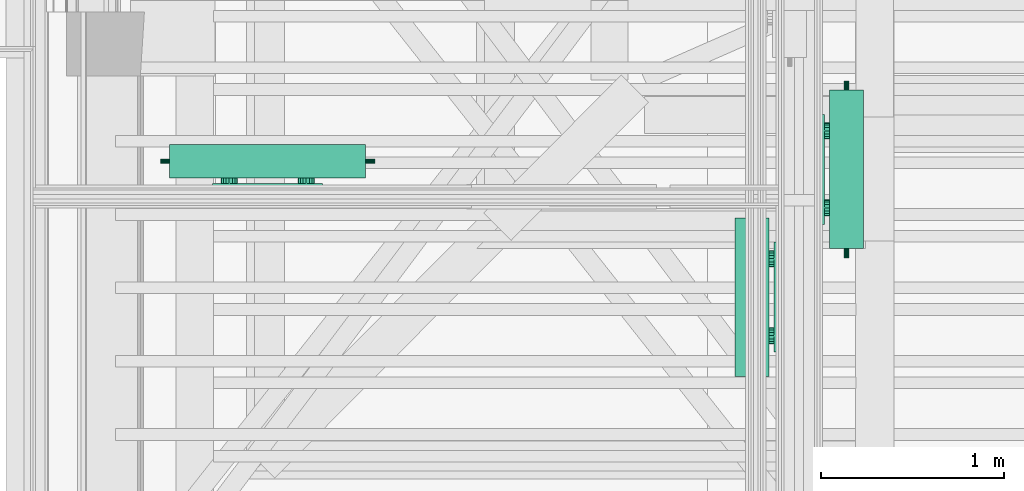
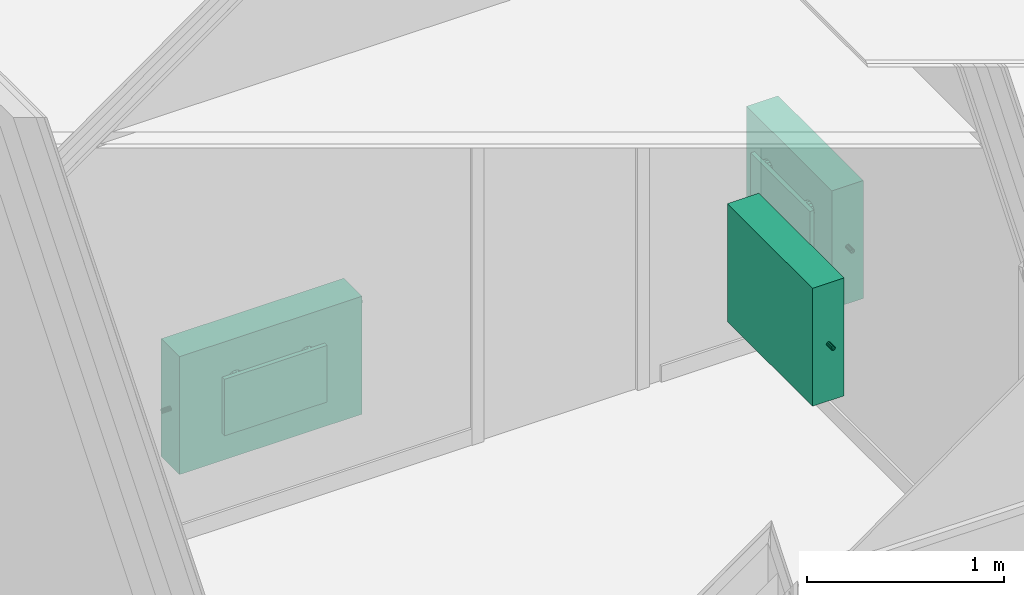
# One storey, part 158 of 183: 3 flow terminals.
"""IFC2X3 building model written with IfcOpenShell, lengths in metres."""

from ifc_helpers import new_model, entity, si_unit, converted_unit, derived_unit, money_unit, direction, frame, origin_with_axes, place, context, subcontext, project, spatial, open_shell, surface_model, material, type_object, element, save


model = new_model("IFC2X3")

# Units and contexts
model_context = context("Model", 3, precision=1e-05, world=origin_with_axes(), true_north=direction((0.0, 1.0)))
body_context = subcontext(model_context, "Body", "Model", "MODEL_VIEW", scale=1.0)
ifc_project = project(units=[si_unit("LENGTHUNIT", "METRE"), si_unit("AREAUNIT", "SQUARE_METRE"), si_unit("VOLUMEUNIT", "CUBIC_METRE"), si_unit("ABSORBEDDOSEUNIT", "GRAY"), si_unit("AMOUNTOFSUBSTANCEUNIT", "MOLE"), si_unit("DOSEEQUIVALENTUNIT", "SIEVERT"), si_unit("ELECTRICCAPACITANCEUNIT", "FARAD"), si_unit("ELECTRICCHARGEUNIT", "COULOMB"), si_unit("ELECTRICCONDUCTANCEUNIT", "SIEMENS"), si_unit("ELECTRICCURRENTUNIT", "AMPERE"), si_unit("ELECTRICRESISTANCEUNIT", "OHM"), si_unit("ELECTRICVOLTAGEUNIT", "VOLT"), si_unit("ENERGYUNIT", "JOULE"), si_unit("FORCEUNIT", "NEWTON"), si_unit("FREQUENCYUNIT", "HERTZ"), si_unit("ILLUMINANCEUNIT", "LUX"), si_unit("INDUCTANCEUNIT", "HENRY"), si_unit("LUMINOUSFLUXUNIT", "LUMEN"), si_unit("LUMINOUSINTENSITYUNIT", "CANDELA"), si_unit("MAGNETICFLUXDENSITYUNIT", "TESLA"), si_unit("MAGNETICFLUXUNIT", "WEBER"), si_unit("MASSUNIT", "GRAM"), converted_unit("PLANEANGLEUNIT", "degree", entity("IfcReal", 0.0174532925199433), si_unit("PLANEANGLEUNIT", "RADIAN"), dimensions=[0, 0, 0, 0, 0, 0, 0]), si_unit("POWERUNIT", "WATT"), si_unit("PRESSUREUNIT", "PASCAL"), si_unit("RADIOACTIVITYUNIT", "BECQUEREL"), si_unit("SOLIDANGLEUNIT", "STERADIAN"), si_unit("THERMODYNAMICTEMPERATUREUNIT", "KELVIN"), si_unit("TIMEUNIT", "SECOND"), derived_unit("ACCELERATIONUNIT", [(si_unit("LENGTHUNIT", "METRE"), 1), (si_unit("TIMEUNIT", "SECOND"), -2)]), derived_unit("ANGULARVELOCITYUNIT", [(converted_unit("PLANEANGLEUNIT", "degree", entity("IfcReal", 0.0174532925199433), si_unit("PLANEANGLEUNIT", "RADIAN"), dimensions=[0, 0, 0, 0, 0, 0, 0]), 1), (si_unit("TIMEUNIT", "SECOND"), -1)]), derived_unit("CURVATUREUNIT", [(converted_unit("PLANEANGLEUNIT", "degree", entity("IfcReal", 0.0174532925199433), si_unit("PLANEANGLEUNIT", "RADIAN"), dimensions=[0, 0, 0, 0, 0, 0, 0]), 1), (si_unit("LENGTHUNIT", "METRE"), -1)]), derived_unit("DYNAMICVISCOSITYUNIT", [(si_unit("PRESSUREUNIT", "PASCAL"), 1), (si_unit("TIMEUNIT", "SECOND"), 1)]), derived_unit("HEATFLUXDENSITYUNIT", [(si_unit("POWERUNIT", "WATT"), 1), (si_unit("LENGTHUNIT", "METRE"), -2)]), derived_unit("HEATINGVALUEUNIT", [(si_unit("ENERGYUNIT", "JOULE"), 1), (si_unit("MASSUNIT", "GRAM"), -1)]), derived_unit("INTEGERCOUNTRATEUNIT", [(si_unit("TIMEUNIT", "SECOND"), -1)]), derived_unit("IONCONCENTRATIONUNIT", [(si_unit("MASSUNIT", "GRAM"), 1), (si_unit("VOLUMEUNIT", "CUBIC_METRE"), -1)]), derived_unit("ISOTHERMALMOISTURECAPACITYUNIT", [(si_unit("VOLUMEUNIT", "CUBIC_METRE"), 1), (si_unit("MASSUNIT", "GRAM"), -1)]), derived_unit("KINEMATICVISCOSITYUNIT", [(si_unit("AREAUNIT", "SQUARE_METRE"), 1), (si_unit("TIMEUNIT", "SECOND"), -1)]), derived_unit("LINEARFORCEUNIT", [(si_unit("FORCEUNIT", "NEWTON"), 1), (si_unit("LENGTHUNIT", "METRE"), -1)]), derived_unit("LINEARMOMENTUNIT", [(si_unit("FORCEUNIT", "NEWTON"), 1), (si_unit("LENGTHUNIT", "METRE"), -1)]), derived_unit("LINEARSTIFFNESSUNIT", [(si_unit("FORCEUNIT", "NEWTON"), 1), (si_unit("LENGTHUNIT", "METRE"), -1)]), derived_unit("LINEARVELOCITYUNIT", [(si_unit("LENGTHUNIT", "METRE"), 1), (si_unit("TIMEUNIT", "SECOND"), -1)]), derived_unit("LUMINOUSINTENSITYDISTRIBUTIONUNIT", [(si_unit("LUMINOUSINTENSITYUNIT", "CANDELA"), 1), (si_unit("LUMINOUSFLUXUNIT", "LUMEN"), -1)]), derived_unit("MASSDENSITYUNIT", [(si_unit("MASSUNIT", "GRAM"), 1), (si_unit("VOLUMEUNIT", "CUBIC_METRE"), -1)]), derived_unit("MASSFLOWRATEUNIT", [(si_unit("MASSUNIT", "GRAM"), 1), (si_unit("TIMEUNIT", "SECOND"), -1)]), derived_unit("MASSPERLENGTHUNIT", [(si_unit("MASSUNIT", "GRAM"), 1), (si_unit("LENGTHUNIT", "METRE"), -1)]), derived_unit("MODULUSOFELASTICITYUNIT", [(si_unit("FORCEUNIT", "NEWTON"), 1), (si_unit("AREAUNIT", "SQUARE_METRE"), -1)]), derived_unit("MODULUSOFLINEARSUBGRADEREACTIONUNIT", [(si_unit("FORCEUNIT", "NEWTON"), 1), (si_unit("LENGTHUNIT", "METRE"), -2)]), derived_unit("MODULUSOFROTATIONALSUBGRADEREACTIONUNIT", [(si_unit("FORCEUNIT", "NEWTON"), 1), (si_unit("LENGTHUNIT", "METRE"), 1)]), derived_unit("MODULUSOFSUBGRADEREACTIONUNIT", [(si_unit("FORCEUNIT", "NEWTON"), 1), (si_unit("VOLUMEUNIT", "CUBIC_METRE"), -1)]), derived_unit("MOISTUREDIFFUSIVITYUNIT", [(si_unit("VOLUMEUNIT", "CUBIC_METRE"), 1), (si_unit("TIMEUNIT", "SECOND"), -1)]), derived_unit("MOLECULARWEIGHTUNIT", [(si_unit("MASSUNIT", "GRAM"), 1), (si_unit("AMOUNTOFSUBSTANCEUNIT", "MOLE"), -1)]), derived_unit("PLANARFORCEUNIT", [(si_unit("FORCEUNIT", "NEWTON"), 1), (si_unit("LENGTHUNIT", "METRE"), -2)]), derived_unit("ROTATIONALFREQUENCYUNIT", [(si_unit("TIMEUNIT", "SECOND"), -1)]), derived_unit("ROTATIONALMASSUNIT", [(si_unit("MASSUNIT", "GRAM"), 1), (si_unit("LENGTHUNIT", "METRE"), 2)]), derived_unit("ROTATIONALSTIFFNESSUNIT", [(si_unit("FORCEUNIT", "NEWTON"), 1), (si_unit("LENGTHUNIT", "METRE"), 1), (converted_unit("PLANEANGLEUNIT", "degree", entity("IfcReal", 0.0174532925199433), si_unit("PLANEANGLEUNIT", "RADIAN"), dimensions=[0, 0, 0, 0, 0, 0, 0]), -1)]), derived_unit("SECTIONAREAINTEGRALUNIT", [(si_unit("LENGTHUNIT", "METRE"), 5)]), derived_unit("SECTIONMODULUSUNIT", [(si_unit("LENGTHUNIT", "METRE"), 3)]), derived_unit("SHEARMODULUSUNIT", [(si_unit("FORCEUNIT", "NEWTON"), 1), (si_unit("AREAUNIT", "SQUARE_METRE"), -1)]), derived_unit("SOUNDPOWERUNIT", [(si_unit("ENERGYUNIT", "JOULE"), 1), (si_unit("TIMEUNIT", "SECOND"), -1)]), derived_unit("SPECIFICHEATCAPACITYUNIT", [(si_unit("FORCEUNIT", "NEWTON"), 1), (si_unit("MASSUNIT", "GRAM"), -1), (si_unit("THERMODYNAMICTEMPERATUREUNIT", "KELVIN"), -1)]), derived_unit("TEMPERATUREGRADIENTUNIT", [(si_unit("THERMODYNAMICTEMPERATUREUNIT", "KELVIN"), 1), (si_unit("LENGTHUNIT", "METRE"), -1)]), derived_unit("THERMALADMITTANCEUNIT", [(si_unit("POWERUNIT", "WATT"), 1), (si_unit("AREAUNIT", "SQUARE_METRE"), -1), (si_unit("THERMODYNAMICTEMPERATUREUNIT", "KELVIN"), -1)]), derived_unit("THERMALCONDUCTANCEUNIT", [(si_unit("POWERUNIT", "WATT"), 1), (si_unit("LENGTHUNIT", "METRE"), -1), (si_unit("THERMODYNAMICTEMPERATUREUNIT", "KELVIN"), -1)]), derived_unit("THERMALEXPANSIONCOEFFICIENTUNIT", [(si_unit("THERMODYNAMICTEMPERATUREUNIT", "KELVIN"), -1)]), derived_unit("THERMALRESISTANCEUNIT", [(si_unit("AREAUNIT", "SQUARE_METRE"), 1), (si_unit("POWERUNIT", "WATT"), -1)]), derived_unit("THERMALTRANSMITTANCEUNIT", [(si_unit("POWERUNIT", "WATT"), 1), (si_unit("AREAUNIT", "SQUARE_METRE"), -1), (si_unit("THERMODYNAMICTEMPERATUREUNIT", "KELVIN"), -1)]), derived_unit("TORQUEUNIT", [(si_unit("FORCEUNIT", "NEWTON"), 1), (si_unit("LENGTHUNIT", "METRE"), 1)]), derived_unit("VAPORPERMEABILITYUNIT", [(si_unit("MASSUNIT", "GRAM"), 1), (si_unit("TIMEUNIT", "SECOND"), -1)]), derived_unit("VOLUMETRICFLOWRATEUNIT", [(si_unit("VOLUMEUNIT", "CUBIC_METRE"), 1), (si_unit("TIMEUNIT", "SECOND"), -1)]), derived_unit("WARPINGCONSTANTUNIT", [(si_unit("LENGTHUNIT", "METRE"), 6)]), derived_unit("WARPINGMOMENTUNIT", [(si_unit("FORCEUNIT", "NEWTON"), 1), (si_unit("LENGTHUNIT", "METRE"), 2)]), money_unit("GBP")], contexts=[model_context])

# Site, building, storey, space
site_placement = place(None, origin_with_axes())
site = spatial("IfcSite", under=ifc_project, at=site_placement, Name="Site", CompositionType="ELEMENT")
building_placement = place(site_placement, origin_with_axes())
building = spatial("IfcBuilding", under=site, at=building_placement, Name="Building01", CompositionType="ELEMENT")
storey_placement = place(building_placement, frame((0.0, 0.0, 5.15), z_axis=(0.0, 0.0, 1.0), x_axis=(1.0, 0.0, 0.0)))
storey = spatial("IfcBuildingStorey", under=building, at=storey_placement, Name="1F", CompositionType="ELEMENT", Elevation=5.15)
space_1_placement = place(storey_placement, frame((7.064669, 7.111475, 0.017975), z_axis=(0.0, 0.0, 1.0), x_axis=(-1.0, 0.0, 0.0)))
space_1 = spatial("IfcSpace", under=storey, at=space_1_placement, Name="k/d/l", CompositionType="ELEMENT", InteriorOrExteriorSpace="NOTDEFINED")

# Flow terminal
ifc_material = material(Name="M_BSUK_Ventilation")
space_heater_type = type_object("IfcSpaceHeaterType", Name="M-BmvRadiatorpanel-Panel", PredefinedType="NOTDEFINED")
flow_terminal_1_placement = place(storey_placement, frame((1.063939, 3.210536, 0.665), z_axis=(0.0, 0.0, 1.0), x_axis=(-1.0, 0.0, 0.0)))
element("IfcFlowTerminal", 1, at=flow_terminal_1_placement, inside=space_1, type_object=space_heater_type, material=ifc_material, Name="M-BmvRadiatorpanel-Panel", ObjectType="M-BmvRadiatorpanel-Panel", context=body_context, shape_type="SurfaceModel", body=[
    surface_model("IfcShellBasedSurfaceModel", [(-1.069, -0.0925, 0.365), (-1.069, 0.0925, 0.365), (0.0, 0.0925, 0.365), (0.0, -0.0925, 0.365), (-1.069, -0.0925, -0.365), (-1.069, 0.0925, -0.365), (0.0, -0.0925, -0.365), (0.0, 0.0925, -0.365), (-0.2345, 0.12025, 0.175), (-0.8345, 0.12025, 0.175), (-0.8345, 0.14525, 0.175), (-0.2345, 0.14525, 0.175), (-0.8345, 0.14525, -0.175), (-0.2345, 0.14525, -0.175), (-0.8345, 0.12025, -0.175), (-0.2345, 0.12025, -0.175), (-0.3245, 0.0925, 0.0775), (-0.3245, 0.12025, 0.0775), (-0.307279, 0.12025, 0.080925), (-0.307279, 0.0925, 0.080925), (-0.29268, 0.12025, 0.09068), (-0.29268, 0.0925, 0.09068), (-0.282925, 0.12025, 0.105279), (-0.282925, 0.0925, 0.105279), (-0.2795, 0.12025, 0.1225), (-0.2795, 0.0925, 0.1225), (-0.282925, 0.12025, 0.139721), (-0.282925, 0.0925, 0.139721), (-0.29268, 0.12025, 0.15432), (-0.29268, 0.0925, 0.15432), (-0.307279, 0.12025, 0.164075), (-0.307279, 0.0925, 0.164075), (-0.3245, 0.12025, 0.1675), (-0.3245, 0.0925, 0.1675), (-0.341721, 0.12025, 0.164075), (-0.341721, 0.0925, 0.164075), (-0.35632, 0.12025, 0.15432), (-0.35632, 0.0925, 0.15432), (-0.366075, 0.12025, 0.139721), (-0.366075, 0.0925, 0.139721), (-0.3695, 0.12025, 0.1225), (-0.3695, 0.0925, 0.1225), (-0.366075, 0.12025, 0.105279), (-0.366075, 0.0925, 0.105279), (-0.35632, 0.12025, 0.09068), (-0.35632, 0.0925, 0.09068), (-0.341721, 0.12025, 0.080925), (-0.341721, 0.0925, 0.080925), (-0.7445, 0.0925, 0.0775), (-0.7445, 0.12025, 0.0775), (-0.727279, 0.12025, 0.080925), (-0.727279, 0.0925, 0.080925), (-0.71268, 0.12025, 0.09068), (-0.71268, 0.0925, 0.09068), (-0.702925, 0.12025, 0.105279), (-0.702925, 0.0925, 0.105279), (-0.6995, 0.12025, 0.1225), (-0.6995, 0.0925, 0.1225), (-0.702925, 0.12025, 0.139721), (-0.702925, 0.0925, 0.139721), (-0.71268, 0.12025, 0.15432), (-0.71268, 0.0925, 0.15432), (-0.727279, 0.12025, 0.164075), (-0.727279, 0.0925, 0.164075), (-0.7445, 0.12025, 0.1675), (-0.7445, 0.0925, 0.1675), (-0.761721, 0.12025, 0.164075), (-0.761721, 0.0925, 0.164075), (-0.77632, 0.12025, 0.15432), (-0.77632, 0.0925, 0.15432), (-0.786075, 0.12025, 0.139721), (-0.786075, 0.0925, 0.139721), (-0.7895, 0.12025, 0.1225), (-0.7895, 0.0925, 0.1225), (-0.786075, 0.12025, 0.105279), (-0.786075, 0.0925, 0.105279), (-0.77632, 0.12025, 0.09068), (-0.77632, 0.0925, 0.09068), (-0.761721, 0.12025, 0.080925), (-0.761721, 0.0925, 0.080925), (0.05, 0.0, -0.0225), (0.0, 0.0, -0.0225), (0.0, 0.004784, -0.021548), (0.05, 0.004784, -0.021548), (0.0, 0.008839, -0.018839), (0.05, 0.008839, -0.018839), (0.0, 0.011548, -0.014784), (0.05, 0.011548, -0.014784), (0.0, 0.0125, -0.01), (0.05, 0.0125, -0.01), (0.0, 0.011548, -0.005216), (0.05, 0.011548, -0.005216), (0.0, 0.008839, -0.001161), (0.05, 0.008839, -0.001161), (0.0, 0.004784, 0.001548), (0.05, 0.004784, 0.001548), (0.0, 0.0, 0.0025), (0.05, 0.0, 0.0025), (0.0, -0.004784, 0.001548), (0.05, -0.004784, 0.001548), (0.0, -0.008839, -0.001161), (0.05, -0.008839, -0.001161), (0.0, -0.011548, -0.005216), (0.05, -0.011548, -0.005216), (0.0, -0.0125, -0.01), (0.05, -0.0125, -0.01), (0.0, -0.011548, -0.014784), (0.05, -0.011548, -0.014784), (0.0, -0.008839, -0.018839), (0.05, -0.008839, -0.018839), (0.0, -0.004784, -0.021548), (0.05, -0.004784, -0.021548), (-1.119, 0.0, 0.2525), (-1.069, 0.0, 0.2525), (-1.069, -0.004784, 0.253452), (-1.119, -0.004784, 0.253452), (-1.069, -0.008839, 0.256161), (-1.119, -0.008839, 0.256161), (-1.069, -0.011548, 0.260216), (-1.119, -0.011548, 0.260216), (-1.069, -0.0125, 0.265), (-1.119, -0.0125, 0.265), (-1.069, -0.011548, 0.269784), (-1.119, -0.011548, 0.269784), (-1.069, -0.008839, 0.273839), (-1.119, -0.008839, 0.273839), (-1.069, -0.004784, 0.276548), (-1.119, -0.004784, 0.276548), (-1.069, 0.0, 0.2775), (-1.119, 0.0, 0.2775), (-1.069, 0.004784, 0.276548), (-1.119, 0.004784, 0.276548), (-1.069, 0.008839, 0.273839), (-1.119, 0.008839, 0.273839), (-1.069, 0.011548, 0.269784), (-1.119, 0.011548, 0.269784), (-1.069, 0.0125, 0.265), (-1.119, 0.0125, 0.265), (-1.069, 0.011548, 0.260216), (-1.119, 0.011548, 0.260216), (-1.069, 0.008839, 0.256161), (-1.119, 0.008839, 0.256161), (-1.069, 0.004784, 0.253452), (-1.119, 0.004784, 0.253452)], [open_shell([[[0, 1, 2, 3]], [[4, 5, 1, 0]], [[6, 7, 5, 4]], [[3, 2, 7, 6]], [[1, 5, 7, 2]], [[3, 6, 4, 0]], [[8, 9, 10, 11]], [[11, 10, 12, 13]], [[13, 12, 14, 15]], [[15, 14, 9, 8]], [[9, 14, 12, 10]], [[11, 13, 15, 8]], [[16, 17, 18, 19]], [[19, 18, 20, 21]], [[21, 20, 22, 23]], [[23, 22, 24, 25]], [[25, 24, 26, 27]], [[27, 26, 28, 29]], [[29, 28, 30, 31]], [[31, 30, 32, 33]], [[33, 32, 34, 35]], [[35, 34, 36, 37]], [[37, 36, 38, 39]], [[39, 38, 40, 41]], [[41, 40, 42, 43]], [[43, 42, 44, 45]], [[45, 44, 46, 47]], [[47, 46, 17, 16]], [[48, 49, 50, 51]], [[51, 50, 52, 53]], [[53, 52, 54, 55]], [[55, 54, 56, 57]], [[57, 56, 58, 59]], [[59, 58, 60, 61]], [[61, 60, 62, 63]], [[63, 62, 64, 65]], [[65, 64, 66, 67]], [[67, 66, 68, 69]], [[69, 68, 70, 71]], [[71, 70, 72, 73]], [[73, 72, 74, 75]], [[75, 74, 76, 77]], [[77, 76, 78, 79]], [[79, 78, 49, 48]], [[80, 81, 82, 83]], [[83, 82, 84, 85]], [[85, 84, 86, 87]], [[87, 86, 88, 89]], [[89, 88, 90, 91]], [[91, 90, 92, 93]], [[93, 92, 94, 95]], [[95, 94, 96, 97]], [[97, 96, 98, 99]], [[99, 98, 100, 101]], [[101, 100, 102, 103]], [[103, 102, 104, 105]], [[105, 104, 106, 107]], [[107, 106, 108, 109]], [[109, 108, 110, 111]], [[111, 110, 81, 80]], [[112, 113, 114, 115]], [[115, 114, 116, 117]], [[117, 116, 118, 119]], [[119, 118, 120, 121]], [[121, 120, 122, 123]], [[123, 122, 124, 125]], [[125, 124, 126, 127]], [[127, 126, 128, 129]], [[129, 128, 130, 131]], [[131, 130, 132, 133]], [[133, 132, 134, 135]], [[135, 134, 136, 137]], [[137, 136, 138, 139]], [[139, 138, 140, 141]], [[141, 140, 142, 143]], [[143, 142, 113, 112]]])]),
])

# Space
space_2_placement = place(storey_placement, frame((0.318, 8.21067, 0.017975), z_axis=(0.0, 0.0, 1.0), x_axis=(0.0, -1.0, 0.0)))
space_2 = spatial("IfcSpace", under=storey, at=space_2_placement, Name="06", CompositionType="ELEMENT", InteriorOrExteriorSpace="NOTDEFINED")

# Flow terminal
flow_terminal_2_placement = place(storey_placement, frame((4.23975, 2.036286, 0.665), z_axis=(0.0, 0.0, 1.0), x_axis=(0.0, -1.0, 0.0)))
element("IfcFlowTerminal", 2, at=flow_terminal_2_placement, inside=space_2, type_object=space_heater_type, material=ifc_material, Name="M-BmvRadiatorpanel-Panel", ObjectType="M-BmvRadiatorpanel-Panel", context=body_context, shape_type="SurfaceModel", body=[
    surface_model("IfcShellBasedSurfaceModel", [(-0.865, -0.0925, 0.365), (-0.865, 0.0925, 0.365), (0.0, 0.0925, 0.365), (0.0, -0.0925, 0.365), (-0.865, -0.0925, -0.365), (-0.865, 0.0925, -0.365), (0.0, -0.0925, -0.365), (0.0, 0.0925, -0.365), (-0.1325, 0.12025, 0.175), (-0.7325, 0.12025, 0.175), (-0.7325, 0.14525, 0.175), (-0.1325, 0.14525, 0.175), (-0.7325, 0.14525, -0.175), (-0.1325, 0.14525, -0.175), (-0.7325, 0.12025, -0.175), (-0.1325, 0.12025, -0.175), (-0.2225, 0.0925, 0.0775), (-0.2225, 0.12025, 0.0775), (-0.205279, 0.12025, 0.080925), (-0.205279, 0.0925, 0.080925), (-0.19068, 0.12025, 0.09068), (-0.19068, 0.0925, 0.09068), (-0.180925, 0.12025, 0.105279), (-0.180925, 0.0925, 0.105279), (-0.1775, 0.12025, 0.1225), (-0.1775, 0.0925, 0.1225), (-0.180925, 0.12025, 0.139721), (-0.180925, 0.0925, 0.139721), (-0.19068, 0.12025, 0.15432), (-0.19068, 0.0925, 0.15432), (-0.205279, 0.12025, 0.164075), (-0.205279, 0.0925, 0.164075), (-0.2225, 0.12025, 0.1675), (-0.2225, 0.0925, 0.1675), (-0.239721, 0.12025, 0.164075), (-0.239721, 0.0925, 0.164075), (-0.25432, 0.12025, 0.15432), (-0.25432, 0.0925, 0.15432), (-0.264075, 0.12025, 0.139721), (-0.264075, 0.0925, 0.139721), (-0.2675, 0.12025, 0.1225), (-0.2675, 0.0925, 0.1225), (-0.264075, 0.12025, 0.105279), (-0.264075, 0.0925, 0.105279), (-0.25432, 0.12025, 0.09068), (-0.25432, 0.0925, 0.09068), (-0.239721, 0.12025, 0.080925), (-0.239721, 0.0925, 0.080925), (-0.6425, 0.0925, 0.0775), (-0.6425, 0.12025, 0.0775), (-0.625279, 0.12025, 0.080925), (-0.625279, 0.0925, 0.080925), (-0.61068, 0.12025, 0.09068), (-0.61068, 0.0925, 0.09068), (-0.600925, 0.12025, 0.105279), (-0.600925, 0.0925, 0.105279), (-0.5975, 0.12025, 0.1225), (-0.5975, 0.0925, 0.1225), (-0.600925, 0.12025, 0.139721), (-0.600925, 0.0925, 0.139721), (-0.61068, 0.12025, 0.15432), (-0.61068, 0.0925, 0.15432), (-0.625279, 0.12025, 0.164075), (-0.625279, 0.0925, 0.164075), (-0.6425, 0.12025, 0.1675), (-0.6425, 0.0925, 0.1675), (-0.659721, 0.12025, 0.164075), (-0.659721, 0.0925, 0.164075), (-0.67432, 0.12025, 0.15432), (-0.67432, 0.0925, 0.15432), (-0.684075, 0.12025, 0.139721), (-0.684075, 0.0925, 0.139721), (-0.6875, 0.12025, 0.1225), (-0.6875, 0.0925, 0.1225), (-0.684075, 0.12025, 0.105279), (-0.684075, 0.0925, 0.105279), (-0.67432, 0.12025, 0.09068), (-0.67432, 0.0925, 0.09068), (-0.659721, 0.12025, 0.080925), (-0.659721, 0.0925, 0.080925), (0.05, 0.0, -0.0225), (0.0, 0.0, -0.0225), (0.0, 0.004784, -0.021548), (0.05, 0.004784, -0.021548), (0.0, 0.008839, -0.018839), (0.05, 0.008839, -0.018839), (0.0, 0.011548, -0.014784), (0.05, 0.011548, -0.014784), (0.0, 0.0125, -0.01), (0.05, 0.0125, -0.01), (0.0, 0.011548, -0.005216), (0.05, 0.011548, -0.005216), (0.0, 0.008839, -0.001161), (0.05, 0.008839, -0.001161), (0.0, 0.004784, 0.001548), (0.05, 0.004784, 0.001548), (0.0, 0.0, 0.0025), (0.05, 0.0, 0.0025), (0.0, -0.004784, 0.001548), (0.05, -0.004784, 0.001548), (0.0, -0.008839, -0.001161), (0.05, -0.008839, -0.001161), (0.0, -0.011548, -0.005216), (0.05, -0.011548, -0.005216), (0.0, -0.0125, -0.01), (0.05, -0.0125, -0.01), (0.0, -0.011548, -0.014784), (0.05, -0.011548, -0.014784), (0.0, -0.008839, -0.018839), (0.05, -0.008839, -0.018839), (0.0, -0.004784, -0.021548), (0.05, -0.004784, -0.021548), (-0.915, 0.0, 0.2525), (-0.865, 0.0, 0.2525), (-0.865, -0.004784, 0.253452), (-0.915, -0.004784, 0.253452), (-0.865, -0.008839, 0.256161), (-0.915, -0.008839, 0.256161), (-0.865, -0.011548, 0.260216), (-0.915, -0.011548, 0.260216), (-0.865, -0.0125, 0.265), (-0.915, -0.0125, 0.265), (-0.865, -0.011548, 0.269784), (-0.915, -0.011548, 0.269784), (-0.865, -0.008839, 0.273839), (-0.915, -0.008839, 0.273839), (-0.865, -0.004784, 0.276548), (-0.915, -0.004784, 0.276548), (-0.865, 0.0, 0.2775), (-0.915, 0.0, 0.2775), (-0.865, 0.004784, 0.276548), (-0.915, 0.004784, 0.276548), (-0.865, 0.008839, 0.273839), (-0.915, 0.008839, 0.273839), (-0.865, 0.011548, 0.269784), (-0.915, 0.011548, 0.269784), (-0.865, 0.0125, 0.265), (-0.915, 0.0125, 0.265), (-0.865, 0.011548, 0.260216), (-0.915, 0.011548, 0.260216), (-0.865, 0.008839, 0.256161), (-0.915, 0.008839, 0.256161), (-0.865, 0.004784, 0.253452), (-0.915, 0.004784, 0.253452)], [open_shell([[[0, 1, 2, 3]], [[4, 5, 1, 0]], [[6, 7, 5, 4]], [[3, 2, 7, 6]], [[1, 5, 7, 2]], [[3, 6, 4, 0]], [[8, 9, 10, 11]], [[11, 10, 12, 13]], [[13, 12, 14, 15]], [[15, 14, 9, 8]], [[9, 14, 12, 10]], [[11, 13, 15, 8]], [[16, 17, 18, 19]], [[19, 18, 20, 21]], [[21, 20, 22, 23]], [[23, 22, 24, 25]], [[25, 24, 26, 27]], [[27, 26, 28, 29]], [[29, 28, 30, 31]], [[31, 30, 32, 33]], [[33, 32, 34, 35]], [[35, 34, 36, 37]], [[37, 36, 38, 39]], [[39, 38, 40, 41]], [[41, 40, 42, 43]], [[43, 42, 44, 45]], [[45, 44, 46, 47]], [[47, 46, 17, 16]], [[48, 49, 50, 51]], [[51, 50, 52, 53]], [[53, 52, 54, 55]], [[55, 54, 56, 57]], [[57, 56, 58, 59]], [[59, 58, 60, 61]], [[61, 60, 62, 63]], [[63, 62, 64, 65]], [[65, 64, 66, 67]], [[67, 66, 68, 69]], [[69, 68, 70, 71]], [[71, 70, 72, 73]], [[73, 72, 74, 75]], [[75, 74, 76, 77]], [[77, 76, 78, 79]], [[79, 78, 49, 48]], [[80, 81, 82, 83]], [[83, 82, 84, 85]], [[85, 84, 86, 87]], [[87, 86, 88, 89]], [[89, 88, 90, 91]], [[91, 90, 92, 93]], [[93, 92, 94, 95]], [[95, 94, 96, 97]], [[97, 96, 98, 99]], [[99, 98, 100, 101]], [[101, 100, 102, 103]], [[103, 102, 104, 105]], [[105, 104, 106, 107]], [[107, 106, 108, 109]], [[109, 108, 110, 111]], [[111, 110, 81, 80]], [[112, 113, 114, 115]], [[115, 114, 116, 117]], [[117, 116, 118, 119]], [[119, 118, 120, 121]], [[121, 120, 122, 123]], [[123, 122, 124, 125]], [[125, 124, 126, 127]], [[127, 126, 128, 129]], [[129, 128, 130, 131]], [[131, 130, 132, 133]], [[133, 132, 134, 135]], [[135, 134, 136, 137]], [[137, 136, 138, 139]], [[139, 138, 140, 141]], [[141, 140, 142, 143]], [[143, 142, 113, 112]]])]),
])

# Space
space_3_placement = place(storey_placement, frame((4.61, 4.98, 0.017975), z_axis=(0.0, 0.0, 1.0), x_axis=(0.0, -1.0, 0.0)))
space_3 = spatial("IfcSpace", under=storey, at=space_3_placement, Name="bed", CompositionType="ELEMENT", InteriorOrExteriorSpace="NOTDEFINED")

# Flow terminal
flow_terminal_3_placement = place(storey_placement, frame((4.75525, 2.7335, 0.665), z_axis=(0.0, 0.0, 1.0), x_axis=(0.0, 1.0, 0.0)))
element("IfcFlowTerminal", 3, at=flow_terminal_3_placement, inside=space_3, type_object=space_heater_type, material=ifc_material, Name="M-BmvRadiatorpanel-Panel", ObjectType="M-BmvRadiatorpanel-Panel", context=body_context, shape_type="SurfaceModel", body=[
    surface_model("IfcShellBasedSurfaceModel", [(0.865, -0.0925, 0.365), (0.865, 0.0925, 0.365), (0.0, 0.0925, 0.365), (0.0, -0.0925, 0.365), (0.865, -0.0925, -0.365), (0.865, 0.0925, -0.365), (0.0, -0.0925, -0.365), (0.0, 0.0925, -0.365), (0.1325, 0.12025, 0.175), (0.7325, 0.12025, 0.175), (0.7325, 0.14525, 0.175), (0.1325, 0.14525, 0.175), (0.7325, 0.14525, -0.175), (0.1325, 0.14525, -0.175), (0.7325, 0.12025, -0.175), (0.1325, 0.12025, -0.175), (0.2225, 0.0925, 0.0775), (0.2225, 0.12025, 0.0775), (0.239721, 0.12025, 0.080925), (0.239721, 0.0925, 0.080925), (0.25432, 0.12025, 0.09068), (0.25432, 0.0925, 0.09068), (0.264075, 0.12025, 0.105279), (0.264075, 0.0925, 0.105279), (0.2675, 0.12025, 0.1225), (0.2675, 0.0925, 0.1225), (0.264075, 0.12025, 0.139721), (0.264075, 0.0925, 0.139721), (0.25432, 0.12025, 0.15432), (0.25432, 0.0925, 0.15432), (0.239721, 0.12025, 0.164075), (0.239721, 0.0925, 0.164075), (0.2225, 0.12025, 0.1675), (0.2225, 0.0925, 0.1675), (0.205279, 0.12025, 0.164075), (0.205279, 0.0925, 0.164075), (0.19068, 0.12025, 0.15432), (0.19068, 0.0925, 0.15432), (0.180925, 0.12025, 0.139721), (0.180925, 0.0925, 0.139721), (0.1775, 0.12025, 0.1225), (0.1775, 0.0925, 0.1225), (0.180925, 0.12025, 0.105279), (0.180925, 0.0925, 0.105279), (0.19068, 0.12025, 0.09068), (0.19068, 0.0925, 0.09068), (0.205279, 0.12025, 0.080925), (0.205279, 0.0925, 0.080925), (0.6425, 0.0925, 0.0775), (0.6425, 0.12025, 0.0775), (0.659721, 0.12025, 0.080925), (0.659721, 0.0925, 0.080925), (0.67432, 0.12025, 0.09068), (0.67432, 0.0925, 0.09068), (0.684075, 0.12025, 0.105279), (0.684075, 0.0925, 0.105279), (0.6875, 0.12025, 0.1225), (0.6875, 0.0925, 0.1225), (0.684075, 0.12025, 0.139721), (0.684075, 0.0925, 0.139721), (0.67432, 0.12025, 0.15432), (0.67432, 0.0925, 0.15432), (0.659721, 0.12025, 0.164075), (0.659721, 0.0925, 0.164075), (0.6425, 0.12025, 0.1675), (0.6425, 0.0925, 0.1675), (0.625279, 0.12025, 0.164075), (0.625279, 0.0925, 0.164075), (0.61068, 0.12025, 0.15432), (0.61068, 0.0925, 0.15432), (0.600925, 0.12025, 0.139721), (0.600925, 0.0925, 0.139721), (0.5975, 0.12025, 0.1225), (0.5975, 0.0925, 0.1225), (0.600925, 0.12025, 0.105279), (0.600925, 0.0925, 0.105279), (0.61068, 0.12025, 0.09068), (0.61068, 0.0925, 0.09068), (0.625279, 0.12025, 0.080925), (0.625279, 0.0925, 0.080925), (-0.05, 0.0, -0.0225), (0.0, 0.0, -0.0225), (0.0, -0.004784, -0.021548), (-0.05, -0.004784, -0.021548), (0.0, -0.008839, -0.018839), (-0.05, -0.008839, -0.018839), (0.0, -0.011548, -0.014784), (-0.05, -0.011548, -0.014784), (0.0, -0.0125, -0.01), (-0.05, -0.0125, -0.01), (0.0, -0.011548, -0.005216), (-0.05, -0.011548, -0.005216), (0.0, -0.008839, -0.001161), (-0.05, -0.008839, -0.001161), (0.0, -0.004784, 0.001548), (-0.05, -0.004784, 0.001548), (0.0, 0.0, 0.0025), (-0.05, 0.0, 0.0025), (0.0, 0.004784, 0.001548), (-0.05, 0.004784, 0.001548), (0.0, 0.008839, -0.001161), (-0.05, 0.008839, -0.001161), (0.0, 0.011548, -0.005216), (-0.05, 0.011548, -0.005216), (0.0, 0.0125, -0.01), (-0.05, 0.0125, -0.01), (0.0, 0.011548, -0.014784), (-0.05, 0.011548, -0.014784), (0.0, 0.008839, -0.018839), (-0.05, 0.008839, -0.018839), (0.0, 0.004784, -0.021548), (-0.05, 0.004784, -0.021548), (0.915, 0.0, 0.2525), (0.865, 0.0, 0.2525), (0.865, 0.004784, 0.253452), (0.915, 0.004784, 0.253452), (0.865, 0.008839, 0.256161), (0.915, 0.008839, 0.256161), (0.865, 0.011548, 0.260216), (0.915, 0.011548, 0.260216), (0.865, 0.0125, 0.265), (0.915, 0.0125, 0.265), (0.865, 0.011548, 0.269784), (0.915, 0.011548, 0.269784), (0.865, 0.008839, 0.273839), (0.915, 0.008839, 0.273839), (0.865, 0.004784, 0.276548), (0.915, 0.004784, 0.276548), (0.865, 0.0, 0.2775), (0.915, 0.0, 0.2775), (0.865, -0.004784, 0.276548), (0.915, -0.004784, 0.276548), (0.865, -0.008839, 0.273839), (0.915, -0.008839, 0.273839), (0.865, -0.011548, 0.269784), (0.915, -0.011548, 0.269784), (0.865, -0.0125, 0.265), (0.915, -0.0125, 0.265), (0.865, -0.011548, 0.260216), (0.915, -0.011548, 0.260216), (0.865, -0.008839, 0.256161), (0.915, -0.008839, 0.256161), (0.865, -0.004784, 0.253452), (0.915, -0.004784, 0.253452)], [open_shell([[[0, 1, 2, 3]], [[4, 5, 1, 0]], [[6, 7, 5, 4]], [[3, 2, 7, 6]], [[1, 5, 7, 2]], [[3, 6, 4, 0]], [[8, 9, 10, 11]], [[11, 10, 12, 13]], [[13, 12, 14, 15]], [[15, 14, 9, 8]], [[9, 14, 12, 10]], [[11, 13, 15, 8]], [[16, 17, 18, 19]], [[19, 18, 20, 21]], [[21, 20, 22, 23]], [[23, 22, 24, 25]], [[25, 24, 26, 27]], [[27, 26, 28, 29]], [[29, 28, 30, 31]], [[31, 30, 32, 33]], [[33, 32, 34, 35]], [[35, 34, 36, 37]], [[37, 36, 38, 39]], [[39, 38, 40, 41]], [[41, 40, 42, 43]], [[43, 42, 44, 45]], [[45, 44, 46, 47]], [[47, 46, 17, 16]], [[48, 49, 50, 51]], [[51, 50, 52, 53]], [[53, 52, 54, 55]], [[55, 54, 56, 57]], [[57, 56, 58, 59]], [[59, 58, 60, 61]], [[61, 60, 62, 63]], [[63, 62, 64, 65]], [[65, 64, 66, 67]], [[67, 66, 68, 69]], [[69, 68, 70, 71]], [[71, 70, 72, 73]], [[73, 72, 74, 75]], [[75, 74, 76, 77]], [[77, 76, 78, 79]], [[79, 78, 49, 48]], [[80, 81, 82, 83]], [[83, 82, 84, 85]], [[85, 84, 86, 87]], [[87, 86, 88, 89]], [[89, 88, 90, 91]], [[91, 90, 92, 93]], [[93, 92, 94, 95]], [[95, 94, 96, 97]], [[97, 96, 98, 99]], [[99, 98, 100, 101]], [[101, 100, 102, 103]], [[103, 102, 104, 105]], [[105, 104, 106, 107]], [[107, 106, 108, 109]], [[109, 108, 110, 111]], [[111, 110, 81, 80]], [[112, 113, 114, 115]], [[115, 114, 116, 117]], [[117, 116, 118, 119]], [[119, 118, 120, 121]], [[121, 120, 122, 123]], [[123, 122, 124, 125]], [[125, 124, 126, 127]], [[127, 126, 128, 129]], [[129, 128, 130, 131]], [[131, 130, 132, 133]], [[133, 132, 134, 135]], [[135, 134, 136, 137]], [[137, 136, 138, 139]], [[139, 138, 140, 141]], [[141, 140, 142, 143]], [[143, 142, 113, 112]]])]),
])

save(model, "model.ifc")
